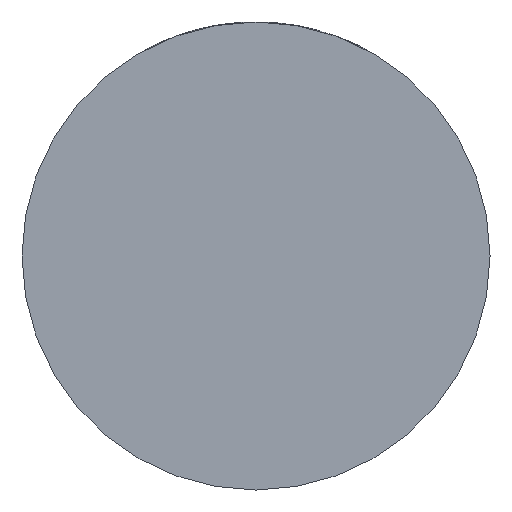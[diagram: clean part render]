
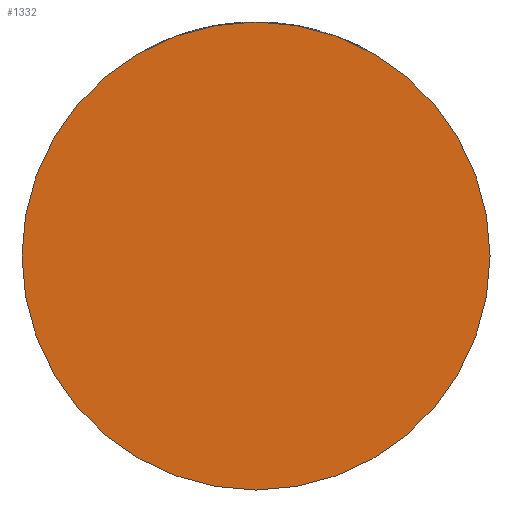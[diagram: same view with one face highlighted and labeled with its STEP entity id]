
A CAD part, front view. The second image highlights one B-rep face of the part: STEP entity #1332.
In plain terms, the highlighted planar face has unit normal (0, -1, 0).
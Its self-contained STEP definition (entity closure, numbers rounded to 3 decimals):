
#336 = VERTEX_POINT ( 'NONE', #3533 ) ;
#457 = CARTESIAN_POINT ( 'NONE',  ( 0., -36., 0. ) ) ;
#593 = CARTESIAN_POINT ( 'NONE',  ( 39., -36., 0. ) ) ;
#1145 = CARTESIAN_POINT ( 'NONE',  ( 0., -36., 0. ) ) ;
#1152 = DIRECTION ( 'NONE',  ( 0., -1., 0. ) ) ;
#1332 = ADVANCED_FACE ( 'NONE', ( #3971 ), #2925, .T. ) ;
#1566 = ORIENTED_EDGE ( 'NONE', *, *, #3715, .T. ) ;
#1763 = VERTEX_POINT ( 'NONE', #593 ) ;
#1915 = DIRECTION ( 'NONE',  ( 0., -1., 0. ) ) ;
#2195 = DIRECTION ( 'NONE',  ( 1., 0., 0. ) ) ;
#2263 = DIRECTION ( 'NONE',  ( 0., -1., 0. ) ) ;
#2678 = EDGE_CURVE ( 'NONE', #336, #1763, #4213, .T. ) ;
#2925 = PLANE ( 'NONE',  #4126 ) ;
#3128 = ORIENTED_EDGE ( 'NONE', *, *, #2678, .T. ) ;
#3193 = AXIS2_PLACEMENT_3D ( 'NONE', #457, #1152, #2195 ) ;
#3285 = DIRECTION ( 'NONE',  ( 1., 0., 0. ) ) ;
#3289 = CARTESIAN_POINT ( 'NONE',  ( 0., -36., 0. ) ) ;
#3533 = CARTESIAN_POINT ( 'NONE',  ( -39., -36., 0. ) ) ;
#3715 = EDGE_CURVE ( 'NONE', #1763, #336, #4443, .T. ) ;
#3971 = FACE_OUTER_BOUND ( 'NONE', #4242, .T. ) ;
#3996 = AXIS2_PLACEMENT_3D ( 'NONE', #3289, #2263, #4074 ) ;
#4074 = DIRECTION ( 'NONE',  ( 1., 0., 0. ) ) ;
#4126 = AXIS2_PLACEMENT_3D ( 'NONE', #1145, #1915, #3285 ) ;
#4213 = CIRCLE ( 'NONE', #3996, 39. ) ;
#4242 = EDGE_LOOP ( 'NONE', ( #3128, #1566 ) ) ;
#4443 = CIRCLE ( 'NONE', #3193, 39. ) ;
